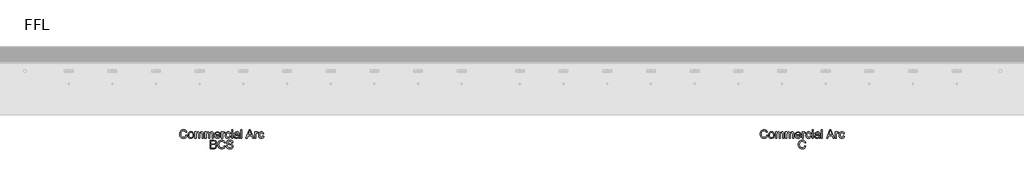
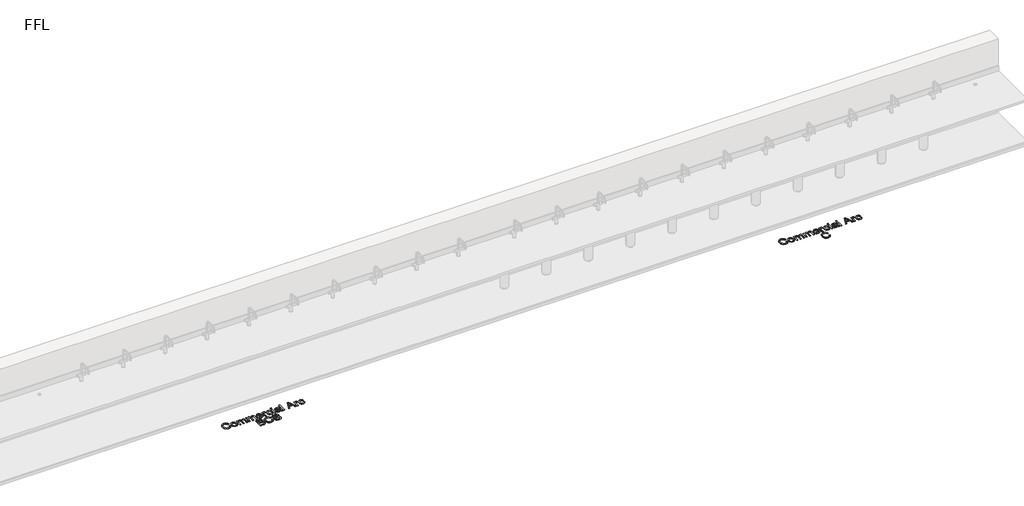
# One storey, part 5 of 9: 2 proxies.
"""IFC4 building model written with IfcOpenShell, lengths in millimetres."""

from ifc_helpers import new_model, si_unit, origin, origin_with_axes, place, context, project, spatial, polyline, outline, extrude, element, save

model = new_model("IFC4")

# Units and contexts
model_context = context("Model", 3, world=origin())
ifc_project = project(units=[si_unit("LENGTHUNIT", "METRE", prefix="MILLI")], contexts=[model_context])

# Site, building, storey
site = spatial("IfcSite", under=ifc_project)
building = spatial("IfcBuilding", under=site)
storey = spatial("IfcBuildingStorey", under=building, Name="FFL", Elevation=0.0)

# Proxies
placement = place(None, origin())
element("IfcBuildingElementProxy", 1, Name="150mm Arial", ObjectType="150mm Arial", at=placement, inside=storey, context=model_context, shape_type="SweptSolid", body=[
    extrude(outline(polyline([(-2955.1199083, -1683.6981691), (-2936.6583698, -1688.4577845), (-2945.1769996, -1709.9707052), (-2958.545389, -1725.6873518), (-2976.1054852, -1735.301234), (-2997.1992352, -1738.5058614), (-3018.6129972, -1736.0809816), (-3035.6187063, -1728.8063422), (-3048.6535621, -1716.934347), (-3058.154764, -1700.7173999), (-3063.9555453, -1681.6518951), (-3065.889139, -1661.2342268), (-3063.7031414, -1639.6987701), (-3057.1451486, -1621.1020153), (-3046.5577087, -1606.0344071), (-3032.2833698, -1595.0863903), (-3015.3542833, -1588.4202244), (-2996.8026006, -1586.1981691), (-2976.5607135, -1589.0737701), (-2959.8254371, -1597.700573), (-2947.1196078, -1611.5467268), (-2938.9660621, -1630.0803807), (-2957.4276006, -1634.4794191), (-2963.8278409, -1621.0163783), (-2972.5718313, -1611.7811018), (-2983.7677448, -1606.4400561), (-2997.5237544, -1604.6597076), (-3013.3801246, -1606.6338662), (-3026.4059659, -1612.5563422), (-3036.2902809, -1621.8051403), (-3042.7220717, -1633.7582653), (-3047.4276006, -1661.1981691), (-3041.8566871, -1693.0010537), (-3034.7352929, -1704.8775561), (-3024.5129371, -1713.3195633), (-3012.2578289, -1718.3631331), (-2999.0381775, -1720.044323), (-2983.6280212, -1717.7546595), (-2970.7869756, -1710.8856691), (-2961.0919635, -1699.5094672), (-2955.1199083, -1683.6981691)])), origin_with_axes(), (0.0, 0.0, 1.0), 5.0),
    extrude(outline(polyline([(-2918.1968313, -1681.9673999), (-2914.2034419, -1655.8165585), (-2902.2232736, -1637.4361499), (-2887.4215909, -1628.4307412), (-2869.6992352, -1625.4289383), (-2850.3047039, -1629.0842869), (-2834.8134179, -1640.0503326), (-2824.6586703, -1657.4616908), (-2821.2737544, -1680.4529768), (-2822.7701486, -1699.1038182), (-2827.2593313, -1713.3015345), (-2834.6105934, -1723.9340465), (-2844.6932256, -1731.8892749), (-2856.6688866, -1736.8517148), (-2869.6992352, -1738.5058614), (-2889.3281414, -1734.8640345), (-2904.8013986, -1723.9385537), (-2914.8479732, -1706.1621114), (-2918.1968313, -1681.9673999)]), holes=[polyline([(-2899.7352929, -1681.9313422), (-2897.5988746, -1698.6395754), (-2891.1896198, -1710.543121), (-2881.5441871, -1717.6690225), (-2869.6992352, -1720.044323), (-2857.9083698, -1717.6555008), (-2848.2809659, -1710.4890345), (-2841.8717111, -1698.4277364), (-2839.7352929, -1681.3544191), (-2841.8852328, -1665.1329648), (-2848.3350525, -1653.3916787), (-2857.975978, -1646.2657773), (-2869.6992352, -1643.8904768), (-2881.5441871, -1646.2567629), (-2891.1896198, -1653.355621), (-2897.5988746, -1665.2321234), (-2899.7352929, -1681.9313422)])]), origin_with_axes(), (0.0, 0.0, 1.0), 5.0),
    extrude(outline(polyline([(-2800.5045236, -1736.1981691), (-2800.5045236, -1627.7366307), (-2782.0429852, -1627.7366307), (-2782.0429852, -1645.5851883), (-2769.3506775, -1630.9637941), (-2751.2857736, -1625.4289383), (-2741.0183458, -1626.8396956), (-2732.7881775, -1631.0719672), (-2722.6199083, -1646.8832653), (-2708.2148602, -1630.7925201), (-2690.0237544, -1625.4289383), (-2676.1460501, -1627.6600081), (-2665.8831294, -1634.3532172), (-2659.5414828, -1645.6888542), (-2657.4276006, -1661.8472076), (-2657.4276006, -1736.1981691), (-2675.889139, -1736.1981691), (-2675.889139, -1669.7798999), (-2677.6018794, -1654.3652364), (-2683.8038025, -1646.7750922), (-2694.3506775, -1643.8904768), (-2704.3521799, -1645.7384335), (-2712.5057256, -1651.2823037), (-2717.927901, -1660.9006932), (-2719.7352929, -1674.9722076), (-2719.7352929, -1736.1981691), (-2738.1968313, -1736.1981691), (-2738.1968313, -1667.7246114), (-2742.4696679, -1649.839996), (-2748.1081895, -1645.3778566), (-2756.4780813, -1643.8904768), (-2770.1439467, -1647.856823), (-2779.2304852, -1659.4673999), (-2782.0429852, -1681.4986499), (-2782.0429852, -1736.1981691), (-2800.5045236, -1736.1981691)])), origin_with_axes(), (0.0, 0.0, 1.0), 5.0),
    extrude(outline(polyline([(-2629.7352929, -1736.1981691), (-2629.7352929, -1627.7366307), (-2611.2737544, -1627.7366307), (-2611.2737544, -1645.5851883), (-2598.5814467, -1630.9637941), (-2580.5165429, -1625.4289383), (-2570.249115, -1626.8396956), (-2562.0189467, -1631.0719672), (-2551.8506775, -1646.8832653), (-2537.4456294, -1630.7925201), (-2519.2545236, -1625.4289383), (-2505.3768193, -1627.6600081), (-2495.1138986, -1634.3532172), (-2488.772252, -1645.6888542), (-2486.6583698, -1661.8472076), (-2486.6583698, -1736.1981691), (-2505.1199083, -1736.1981691), (-2505.1199083, -1669.7798999), (-2506.8326486, -1654.3652364), (-2513.0345717, -1646.7750922), (-2523.5814467, -1643.8904768), (-2533.5829491, -1645.7384335), (-2541.7364948, -1651.2823037), (-2547.1586703, -1660.9006932), (-2548.9660621, -1674.9722076), (-2548.9660621, -1736.1981691), (-2567.4276006, -1736.1981691), (-2567.4276006, -1667.7246114), (-2571.7004371, -1649.839996), (-2577.3389587, -1645.3778566), (-2585.7088506, -1643.8904768), (-2599.3747159, -1647.856823), (-2608.4612544, -1659.4673999), (-2611.2737544, -1681.4986499), (-2611.2737544, -1736.1981691), (-2629.7352929, -1736.1981691)])), origin_with_axes(), (0.0, 0.0, 1.0), 5.0),
    extrude(outline(polyline([(-2383.0285621, -1703.8904768), (-2364.9276006, -1706.1981691), (-2371.4495357, -1719.8369912), (-2381.8566871, -1730.0323037), (-2395.9146799, -1736.387472), (-2413.389139, -1738.5058614), (-2435.0507977, -1734.8505129), (-2451.7184659, -1723.8844672), (-2462.3464708, -1706.3198638), (-2465.889139, -1682.8688422), (-2462.3104131, -1658.6290585), (-2451.5742352, -1640.5010537), (-2435.1319275, -1629.1969672), (-2414.4348121, -1625.4289383), (-2394.382228, -1629.1879528), (-2378.3590909, -1640.464996), (-2367.8527809, -1658.5569432), (-2364.3506775, -1682.7606691), (-2364.4588506, -1687.7366307), (-2447.4276006, -1687.7366307), (-2444.2319876, -1701.5557412), (-2436.8086102, -1711.714996), (-2426.0949684, -1717.9619912), (-2413.0285621, -1720.044323), (-2394.9276006, -1716.1861499), (-2383.0285621, -1703.8904768)]), holes=[polyline([(-2447.4276006, -1669.2750922), (-2382.8122159, -1669.2750922), (-2385.3092111, -1659.5214864), (-2390.2040429, -1652.544323), (-2400.967264, -1646.0539383), (-2414.5069275, -1643.8904768), (-2426.9513385, -1645.6167388), (-2437.2413025, -1650.7955249), (-2444.3942472, -1658.8679408), (-2447.4276006, -1669.2750922)])]), origin_with_axes(), (0.0, 0.0, 1.0), 5.0),
    extrude(outline(polyline([(-2345.889139, -1736.1981691), (-2345.889139, -1627.7366307), (-2329.7352929, -1627.7366307), (-2329.7352929, -1643.7823037), (-2318.2689467, -1628.9986499), (-2306.7304852, -1625.4289383), (-2288.1968313, -1631.1260537), (-2294.3626967, -1647.6765345), (-2307.3434659, -1643.8904768), (-2317.7821679, -1647.5323037), (-2324.4348121, -1657.6284576), (-2327.4276006, -1679.1909576), (-2327.4276006, -1736.1981691), (-2345.889139, -1736.1981691)])), origin_with_axes(), (0.0, 0.0, 1.0), 5.0),
    extrude(outline(polyline([(-2207.4276006, -1696.9673999), (-2188.9660621, -1699.2750922), (-2194.1132977, -1715.6948638), (-2203.7857736, -1728.1032172), (-2217.0730333, -1735.9052004), (-2233.0646198, -1738.5058614), (-2252.7025405, -1734.8775561), (-2268.0586102, -1723.9926403), (-2277.9699684, -1706.3288783), (-2281.2737544, -1682.3640345), (-2275.6307256, -1651.6969672), (-2268.5093313, -1640.1990706), (-2258.4312063, -1631.9914383), (-2246.3744155, -1627.0695633), (-2233.3170236, -1625.4289383), (-2217.7175645, -1627.6825441), (-2205.2461102, -1634.4433614), (-2196.2992953, -1645.3508133), (-2191.2737544, -1660.044323), (-2209.7352929, -1662.3520153), (-2218.2989948, -1648.5238903), (-2233.1727929, -1643.8904768), (-2245.1033818, -1646.1711258), (-2254.5730333, -1653.013073), (-2260.7524203, -1664.7859095), (-2262.8122159, -1681.8592268), (-2260.7974924, -1699.1624119), (-2254.7533217, -1710.9758133), (-2245.4549443, -1717.7771956), (-2233.6776006, -1720.044323), (-2224.1178049, -1718.6290585), (-2216.279764, -1714.3832653), (-2210.5781414, -1707.1987701), (-2207.4276006, -1696.9673999)])), origin_with_axes(), (0.0, 0.0, 1.0), 5.0),
    extrude(outline(polyline([(-2172.8122159, -1606.9673999), (-2172.8122159, -1588.5058614), (-2154.3506775, -1588.5058614), (-2154.3506775, -1606.9673999), (-2172.8122159, -1606.9673999)])), origin_with_axes(), (0.0, 0.0, 1.0), 5.0),
    extrude(outline(polyline([(-2172.8122159, -1736.1981691), (-2172.8122159, -1627.7366307), (-2154.3506775, -1627.7366307), (-2154.3506775, -1736.1981691), (-2172.8122159, -1736.1981691)])), origin_with_axes(), (0.0, 0.0, 1.0), 5.0),
    extrude(outline(polyline([(-2057.4276006, -1722.3520153), (-2075.3302448, -1734.8640345), (-2095.107889, -1738.5058614), (-2110.5360741, -1736.3153566), (-2121.9167833, -1729.7438422), (-2128.9345116, -1719.7648758), (-2131.2737544, -1707.3520153), (-2127.7401006, -1692.7486499), (-2118.4552448, -1682.1476883), (-2105.5285621, -1676.089996), (-2089.5550044, -1673.3135537), (-2057.5357736, -1666.9673999), (-2057.4276006, -1662.856823), (-2058.6986342, -1654.6176403), (-2062.5117352, -1649.2270153), (-2071.0393794, -1645.2246114), (-2082.920389, -1643.8904768), (-2101.5982736, -1647.4421595), (-2110.5045236, -1660.044323), (-2128.9660621, -1657.7366307), (-2120.9792833, -1639.7077845), (-2104.8975525, -1629.1428807), (-2080.5405813, -1625.4289383), (-2058.1667833, -1628.7101883), (-2045.5285621, -1636.949371), (-2039.8675044, -1649.4794191), (-2038.9660621, -1665.6332653), (-2038.9660621, -1688.6020153), (-2038.0285621, -1720.6753326), (-2034.3506775, -1736.1981691), (-2052.8122159, -1736.1981691), (-2057.4276006, -1722.3520153)]), holes=[polyline([(-2057.4276006, -1685.4289383), (-2087.2112544, -1691.089996), (-2103.0946679, -1694.0827845), (-2110.2881775, -1698.950573), (-2112.8122159, -1706.0539383), (-2107.3134179, -1716.0419191), (-2091.1776006, -1720.044323), (-2072.4997159, -1715.6272557), (-2060.4564467, -1704.9361499), (-2057.5357736, -1690.6573037), (-2057.4276006, -1685.4289383)])]), origin_with_axes(), (0.0, 0.0, 1.0), 5.0),
    extrude(outline(polyline([(-2013.5814467, -1736.1981691), (-2013.5814467, -1588.5058614), (-1995.1199083, -1588.5058614), (-1995.1199083, -1736.1981691), (-2013.5814467, -1736.1981691)])), origin_with_axes(), (0.0, 0.0, 1.0), 5.0),
    extrude(outline(polyline([(-1924.6271198, -1736.1981691), (-1865.6727929, -1588.5058614), (-1849.951639, -1588.5058614), (-1790.9973121, -1736.1981691), (-1810.5045236, -1736.1981691), (-1827.4155813, -1690.044323), (-1888.2449083, -1690.044323), (-1905.1199083, -1736.1981691), (-1924.6271198, -1736.1981691)]), holes=[polyline([(-1881.4660621, -1671.5827845), (-1834.1583698, -1671.5827845), (-1847.4636583, -1635.2726883), (-1857.8122159, -1606.9673999), (-1867.0069275, -1632.0996114), (-1881.4660621, -1671.5827845)])]), origin_with_axes(), (0.0, 0.0, 1.0), 5.0),
    extrude(outline(polyline([(-1773.5814467, -1736.1981691), (-1773.5814467, -1627.7366307), (-1757.4276006, -1627.7366307), (-1757.4276006, -1643.7823037), (-1745.9612544, -1628.9986499), (-1734.4227929, -1625.4289383), (-1715.889139, -1631.1260537), (-1722.0550044, -1647.6765345), (-1735.0357736, -1643.8904768), (-1745.4744756, -1647.5323037), (-1752.1271198, -1657.6284576), (-1755.1199083, -1679.1909576), (-1755.1199083, -1736.1981691), (-1773.5814467, -1736.1981691)])), origin_with_axes(), (0.0, 0.0, 1.0), 5.0),
    extrude(outline(polyline([(-1635.1199083, -1696.9673999), (-1616.6583698, -1699.2750922), (-1621.8056054, -1715.6948638), (-1631.4780813, -1728.1032172), (-1644.7653409, -1735.9052004), (-1660.7569275, -1738.5058614), (-1680.3948482, -1734.8775561), (-1695.7509179, -1723.9926403), (-1705.662276, -1706.3288783), (-1708.9660621, -1682.3640345), (-1703.3230333, -1651.6969672), (-1696.201639, -1640.1990706), (-1686.123514, -1631.9914383), (-1674.0667232, -1627.0695633), (-1661.0093313, -1625.4289383), (-1645.4098722, -1627.6825441), (-1632.9384179, -1634.4433614), (-1623.991603, -1645.3508133), (-1618.9660621, -1660.044323), (-1637.4276006, -1662.3520153), (-1645.9913025, -1648.5238903), (-1660.8651006, -1643.8904768), (-1672.7956895, -1646.1711258), (-1682.2653409, -1653.013073), (-1688.444728, -1664.7859095), (-1690.5045236, -1681.8592268), (-1688.4898001, -1699.1624119), (-1682.4456294, -1710.9758133), (-1673.147252, -1717.7771956), (-1661.3699083, -1720.044323), (-1651.8101126, -1718.6290585), (-1643.9720717, -1714.3832653), (-1638.2704491, -1707.1987701), (-1635.1199083, -1696.9673999)])), origin_with_axes(), (0.0, 0.0, 1.0), 5.0),
    extrude(outline(polyline([(-2538.5814467, -1918.5058614), (-2538.5814467, -1770.8135537), (-2482.2232736, -1770.8135537), (-2454.6211102, -1775.1585057), (-2445.3452688, -1780.6708254), (-2438.3230333, -1788.5178807), (-2432.4276006, -1807.4121114), (-2437.3855333, -1824.6657172), (-2452.3675044, -1837.7366307), (-2441.9062664, -1843.199371), (-2434.1763986, -1851.5106691), (-2429.4032616, -1862.1206451), (-2427.8122159, -1874.4794191), (-2432.1571679, -1894.3291787), (-2442.920389, -1908.4637941), (-2458.9840909, -1915.9637941), (-2482.6559659, -1918.5058614), (-2538.5814467, -1918.5058614)]), holes=[polyline([(-2520.1199083, -1900.044323), (-2482.2593313, -1900.044323), (-2468.5574083, -1899.3231691), (-2456.9648602, -1895.3027364), (-2449.2845717, -1887.0996114), (-2446.2737544, -1874.6597076), (-2449.8074083, -1860.308746), (-2461.2557256, -1851.7450441), (-2484.0622159, -1849.2750922), (-2520.1199083, -1849.2750922), (-2520.1199083, -1900.044323)]), polyline([(-2520.1199083, -1830.8135537), (-2486.4059659, -1830.8135537), (-2466.7184659, -1829.2270153), (-2454.873514, -1822.3940826), (-2450.889139, -1810.3688422), (-2454.6030813, -1798.325573), (-2465.2401006, -1791.2041787), (-2488.9660621, -1789.2750922), (-2520.1199083, -1789.2750922), (-2520.1199083, -1830.8135537)])]), origin_with_axes(), (0.0, 0.0, 1.0), 5.0),
    extrude(outline(polyline([(-2298.5814467, -1866.0058614), (-2280.1199083, -1870.7654768), (-2288.6385381, -1892.2783975), (-2302.0069275, -1907.9950441), (-2319.5670236, -1917.6089263), (-2340.6607736, -1920.8135537), (-2362.0745357, -1918.3886739), (-2379.0802448, -1911.1140345), (-2392.1151006, -1899.2420393), (-2401.6163025, -1883.0250922), (-2407.4170837, -1863.9595874), (-2409.3506775, -1843.5419191), (-2407.1646799, -1822.0064624), (-2400.6066871, -1803.4097076), (-2390.0192472, -1788.3420994), (-2375.7449083, -1777.3940826), (-2358.8158217, -1770.7279167), (-2340.264139, -1768.5058614), (-2320.022252, -1771.3814624), (-2303.2869756, -1780.0082653), (-2290.5811462, -1793.8544191), (-2282.4276006, -1812.388073), (-2300.889139, -1816.7871114), (-2307.2893794, -1803.3240706), (-2316.0333698, -1794.0887941), (-2327.2292833, -1788.7477484), (-2340.9852929, -1786.9673999), (-2356.8416631, -1788.9415585), (-2369.8675044, -1794.8640345), (-2379.7518193, -1804.1128326), (-2386.1836102, -1816.0659576), (-2390.889139, -1843.5058614), (-2385.3182256, -1875.308746), (-2378.1968313, -1887.1852484), (-2367.9744756, -1895.6272557), (-2355.7193674, -1900.6708254), (-2342.4997159, -1902.3520153), (-2327.0895597, -1900.0623518), (-2314.248514, -1893.1933614), (-2304.553502, -1881.8171595), (-2298.5814467, -1866.0058614)])), origin_with_axes(), (0.0, 0.0, 1.0), 5.0),
    extrude(outline(polyline([(-2261.6583698, -1867.7366307), (-2243.1968313, -1867.7366307), (-2237.2473121, -1886.216198), (-2222.7160621, -1897.8988903), (-2200.576639, -1902.3520153), (-2181.2857736, -1898.980621), (-2168.8278409, -1889.7137941), (-2164.7352929, -1877.3279768), (-2167.8001967, -1865.8075441), (-2180.3482736, -1857.4241307), (-2207.2292833, -1850.3748518), (-2236.1655813, -1841.2702845), (-2251.8687063, -1827.5323037), (-2257.0429852, -1809.1789383), (-2255.4429251, -1798.3661379), (-2250.6427448, -1788.2835057), (-2242.7686462, -1779.7378326), (-2231.9468313, -1773.5359095), (-2204.5790429, -1768.5058614), (-2175.3723121, -1773.7702845), (-2164.1763986, -1780.2696835), (-2155.9011583, -1789.2390345), (-2150.6637784, -1800.1194432), (-2148.5814467, -1812.3520153), (-2167.0429852, -1812.3520153), (-2170.4324083, -1801.3363903), (-2177.4997159, -1793.3856691), (-2188.5423842, -1788.5719672), (-2203.857889, -1786.9673999), (-2219.5339708, -1788.5539383), (-2230.2881775, -1793.3135537), (-2236.5081294, -1800.3177605), (-2238.5814467, -1808.638073), (-2237.1120958, -1815.7324239), (-2232.7040429, -1821.4385537), (-2202.5598121, -1831.7510537), (-2169.8915429, -1841.0178807), (-2159.3672039, -1847.715597), (-2152.0249563, -1855.981823), (-2146.2737544, -1876.8592268), (-2147.927901, -1888.2399359), (-2152.8903409, -1898.9445633), (-2160.9582496, -1908.1573037), (-2171.9288025, -1915.0623518), (-2199.8554852, -1920.8135537), (-2217.9429251, -1919.263073), (-2232.8302448, -1914.6116307), (-2244.6887184, -1906.841198), (-2253.6896198, -1895.933746), (-2259.467865, -1882.6464864), (-2261.6583698, -1867.7366307)])), origin_with_axes(), (0.0, 0.0, 1.0), 5.0),
])
element("IfcBuildingElementProxy", 2, Name="150mm Arial", ObjectType="150mm Arial", at=placement, inside=storey, context=model_context, shape_type="SweptSolid", body=[
    extrude(outline(polyline([(7014.8800917, -1683.6981691), (7033.3416302, -1688.4577845), (7024.8230004, -1709.9707052), (7011.454611, -1725.6873518), (6993.8945148, -1735.301234), (6972.8007648, -1738.5058614), (6951.3870028, -1736.0809816), (6934.3812937, -1728.8063422), (6921.3464379, -1716.934347), (6911.845236, -1700.7173999), (6906.0444547, -1681.6518951), (6904.110861, -1661.2342268), (6906.2968586, -1639.6987701), (6912.8548514, -1621.1020153), (6923.4422913, -1606.0344071), (6937.7166302, -1595.0863903), (6954.6457167, -1588.4202244), (6973.1973994, -1586.1981691), (6993.4392865, -1589.0737701), (7010.1745629, -1597.700573), (7022.8803922, -1611.5467268), (7031.0339379, -1630.0803807), (7012.5723994, -1634.4794191), (7006.1721591, -1621.0163783), (6997.4281687, -1611.7811018), (6986.2322552, -1606.4400561), (6972.4762456, -1604.6597076), (6956.6198754, -1606.6338662), (6943.5940341, -1612.5563422), (6933.7097191, -1621.8051403), (6927.2779283, -1633.7582653), (6922.5723994, -1661.1981691), (6928.1433129, -1693.0010537), (6935.2647071, -1704.8775561), (6945.4870629, -1713.3195633), (6957.7421711, -1718.3631331), (6970.9618225, -1720.044323), (6986.3719788, -1717.7546595), (6999.2130244, -1710.8856691), (7008.9080365, -1699.5094672), (7014.8800917, -1683.6981691)])), origin_with_axes(), (0.0, 0.0, 1.0), 5.0),
    extrude(outline(polyline([(7051.8031687, -1681.9673999), (7055.7965581, -1655.8165585), (7067.7767264, -1637.4361499), (7082.5784091, -1628.4307412), (7100.3007648, -1625.4289383), (7119.6952961, -1629.0842869), (7135.1865821, -1640.0503326), (7145.3413297, -1657.4616908), (7148.7262456, -1680.4529768), (7147.2298514, -1699.1038182), (7142.7406687, -1713.3015345), (7135.3894066, -1723.9340465), (7125.3067744, -1731.8892749), (7113.3311134, -1736.8517148), (7100.3007648, -1738.5058614), (7080.6718586, -1734.8640345), (7065.1986014, -1723.9385537), (7055.1520268, -1706.1621114), (7051.8031687, -1681.9673999)]), holes=[polyline([(7070.2647071, -1681.9313422), (7072.4011254, -1698.6395754), (7078.8103802, -1710.543121), (7088.4558129, -1717.6690225), (7100.3007648, -1720.044323), (7112.0916302, -1717.6555008), (7121.7190341, -1710.4890345), (7128.1282889, -1698.4277364), (7130.2647071, -1681.3544191), (7128.1147672, -1665.1329648), (7121.6649475, -1653.3916787), (7112.024022, -1646.2657773), (7100.3007648, -1643.8904768), (7088.4558129, -1646.2567629), (7078.8103802, -1653.355621), (7072.4011254, -1665.2321234), (7070.2647071, -1681.9313422)])]), origin_with_axes(), (0.0, 0.0, 1.0), 5.0),
    extrude(outline(polyline([(7169.4954764, -1736.1981691), (7169.4954764, -1627.7366307), (7187.9570148, -1627.7366307), (7187.9570148, -1645.5851883), (7200.6493225, -1630.9637941), (7218.7142264, -1625.4289383), (7228.9816542, -1626.8396956), (7237.2118225, -1631.0719672), (7247.3800917, -1646.8832653), (7261.7851398, -1630.7925201), (7279.9762456, -1625.4289383), (7293.8539499, -1627.6600081), (7304.1168706, -1634.3532172), (7310.4585172, -1645.6888542), (7312.5723994, -1661.8472076), (7312.5723994, -1736.1981691), (7294.110861, -1736.1981691), (7294.110861, -1669.7798999), (7292.3981206, -1654.3652364), (7286.1961975, -1646.7750922), (7275.6493225, -1643.8904768), (7265.6478201, -1645.7384335), (7257.4942744, -1651.2823037), (7252.072099, -1660.9006932), (7250.2647071, -1674.9722076), (7250.2647071, -1736.1981691), (7231.8031687, -1736.1981691), (7231.8031687, -1667.7246114), (7227.5303321, -1649.839996), (7221.8918105, -1645.3778566), (7213.5219187, -1643.8904768), (7199.8560533, -1647.856823), (7190.7695148, -1659.4673999), (7187.9570148, -1681.4986499), (7187.9570148, -1736.1981691), (7169.4954764, -1736.1981691)])), origin_with_axes(), (0.0, 0.0, 1.0), 5.0),
    extrude(outline(polyline([(7340.2647071, -1736.1981691), (7340.2647071, -1627.7366307), (7358.7262456, -1627.7366307), (7358.7262456, -1645.5851883), (7371.4185533, -1630.9637941), (7389.4834571, -1625.4289383), (7399.750885, -1626.8396956), (7407.9810533, -1631.0719672), (7418.1493225, -1646.8832653), (7432.5543706, -1630.7925201), (7450.7454764, -1625.4289383), (7464.6231807, -1627.6600081), (7474.8861014, -1634.3532172), (7481.227748, -1645.6888542), (7483.3416302, -1661.8472076), (7483.3416302, -1736.1981691), (7464.8800917, -1736.1981691), (7464.8800917, -1669.7798999), (7463.1673514, -1654.3652364), (7456.9654283, -1646.7750922), (7446.4185533, -1643.8904768), (7436.4170509, -1645.7384335), (7428.2635052, -1651.2823037), (7422.8413297, -1660.9006932), (7421.0339379, -1674.9722076), (7421.0339379, -1736.1981691), (7402.5723994, -1736.1981691), (7402.5723994, -1667.7246114), (7398.2995629, -1649.839996), (7392.6610413, -1645.3778566), (7384.2911494, -1643.8904768), (7370.6252841, -1647.856823), (7361.5387456, -1659.4673999), (7358.7262456, -1681.4986499), (7358.7262456, -1736.1981691), (7340.2647071, -1736.1981691)])), origin_with_axes(), (0.0, 0.0, 1.0), 5.0),
    extrude(outline(polyline([(7586.9714379, -1703.8904768), (7605.0723994, -1706.1981691), (7598.5504643, -1719.8369912), (7588.1433129, -1730.0323037), (7574.0853201, -1736.387472), (7556.610861, -1738.5058614), (7534.9492023, -1734.8505129), (7518.2815341, -1723.8844672), (7507.6535292, -1706.3198638), (7504.110861, -1682.8688422), (7507.6895869, -1658.6290585), (7518.4257648, -1640.5010537), (7534.8680725, -1629.1969672), (7555.5651879, -1625.4289383), (7575.617772, -1629.1879528), (7591.6409091, -1640.464996), (7602.1472191, -1658.5569432), (7605.6493225, -1682.7606691), (7605.5411494, -1687.7366307), (7522.5723994, -1687.7366307), (7525.7680124, -1701.5557412), (7533.1913898, -1711.714996), (7543.9050316, -1717.9619912), (7556.9714379, -1720.044323), (7575.0723994, -1716.1861499), (7586.9714379, -1703.8904768)]), holes=[polyline([(7522.5723994, -1669.2750922), (7587.1877841, -1669.2750922), (7584.6907889, -1659.5214864), (7579.7959571, -1652.544323), (7569.032736, -1646.0539383), (7555.4930725, -1643.8904768), (7543.0486615, -1645.6167388), (7532.7586975, -1650.7955249), (7525.6057528, -1658.8679408), (7522.5723994, -1669.2750922)])]), origin_with_axes(), (0.0, 0.0, 1.0), 5.0),
    extrude(outline(polyline([(7624.110861, -1736.1981691), (7624.110861, -1627.7366307), (7640.2647071, -1627.7366307), (7640.2647071, -1643.7823037), (7651.7310533, -1628.9986499), (7663.2695148, -1625.4289383), (7681.8031687, -1631.1260537), (7675.6373033, -1647.6765345), (7662.6565341, -1643.8904768), (7652.2178321, -1647.5323037), (7645.5651879, -1657.6284576), (7642.5723994, -1679.1909576), (7642.5723994, -1736.1981691), (7624.110861, -1736.1981691)])), origin_with_axes(), (0.0, 0.0, 1.0), 5.0),
    extrude(outline(polyline([(7762.5723994, -1696.9673999), (7781.0339379, -1699.2750922), (7775.8867023, -1715.6948638), (7766.2142264, -1728.1032172), (7752.9269667, -1735.9052004), (7736.9353802, -1738.5058614), (7717.2974595, -1734.8775561), (7701.9413898, -1723.9926403), (7692.0300316, -1706.3288783), (7688.7262456, -1682.3640345), (7694.3692744, -1651.6969672), (7701.4906687, -1640.1990706), (7711.5687937, -1631.9914383), (7723.6255845, -1627.0695633), (7736.6829764, -1625.4289383), (7752.2824355, -1627.6825441), (7764.7538898, -1634.4433614), (7773.7007047, -1645.3508133), (7778.7262456, -1660.044323), (7760.2647071, -1662.3520153), (7751.7010052, -1648.5238903), (7736.8272071, -1643.8904768), (7724.8966182, -1646.1711258), (7715.4269667, -1653.013073), (7709.2475797, -1664.7859095), (7707.1877841, -1681.8592268), (7709.2025076, -1699.1624119), (7715.2466783, -1710.9758133), (7724.5450557, -1717.7771956), (7736.3223994, -1720.044323), (7745.8821951, -1718.6290585), (7753.720236, -1714.3832653), (7759.4218586, -1707.1987701), (7762.5723994, -1696.9673999)])), origin_with_axes(), (0.0, 0.0, 1.0), 5.0),
    extrude(outline(polyline([(7797.1877841, -1606.9673999), (7797.1877841, -1588.5058614), (7815.6493225, -1588.5058614), (7815.6493225, -1606.9673999), (7797.1877841, -1606.9673999)])), origin_with_axes(), (0.0, 0.0, 1.0), 5.0),
    extrude(outline(polyline([(7797.1877841, -1736.1981691), (7797.1877841, -1627.7366307), (7815.6493225, -1627.7366307), (7815.6493225, -1736.1981691), (7797.1877841, -1736.1981691)])), origin_with_axes(), (0.0, 0.0, 1.0), 5.0),
    extrude(outline(polyline([(7912.5723994, -1722.3520153), (7894.6697552, -1734.8640345), (7874.892111, -1738.5058614), (7859.4639259, -1736.3153566), (7848.0832167, -1729.7438422), (7841.0654884, -1719.7648758), (7838.7262456, -1707.3520153), (7842.2598994, -1692.7486499), (7851.5447552, -1682.1476883), (7864.4714379, -1676.089996), (7880.4449956, -1673.3135537), (7912.4642264, -1666.9673999), (7912.5723994, -1662.856823), (7911.3013658, -1654.6176403), (7907.4882648, -1649.2270153), (7898.9606206, -1645.2246114), (7887.079611, -1643.8904768), (7868.4017264, -1647.4421595), (7859.4954764, -1660.044323), (7841.0339379, -1657.7366307), (7849.0207167, -1639.7077845), (7865.1024475, -1629.1428807), (7889.4594187, -1625.4289383), (7911.8332167, -1628.7101883), (7924.4714379, -1636.949371), (7930.1324956, -1649.4794191), (7931.0339379, -1665.6332653), (7931.0339379, -1688.6020153), (7931.9714379, -1720.6753326), (7935.6493225, -1736.1981691), (7917.1877841, -1736.1981691), (7912.5723994, -1722.3520153)]), holes=[polyline([(7912.5723994, -1685.4289383), (7882.7887456, -1691.089996), (7866.9053321, -1694.0827845), (7859.7118225, -1698.950573), (7857.1877841, -1706.0539383), (7862.6865821, -1716.0419191), (7878.8223994, -1720.044323), (7897.5002841, -1715.6272557), (7909.5435533, -1704.9361499), (7912.4642264, -1690.6573037), (7912.5723994, -1685.4289383)])]), origin_with_axes(), (0.0, 0.0, 1.0), 5.0),
    extrude(outline(polyline([(7956.4185533, -1736.1981691), (7956.4185533, -1588.5058614), (7974.8800917, -1588.5058614), (7974.8800917, -1736.1981691), (7956.4185533, -1736.1981691)])), origin_with_axes(), (0.0, 0.0, 1.0), 5.0),
    extrude(outline(polyline([(8045.3728802, -1736.1981691), (8104.3272071, -1588.5058614), (8120.048361, -1588.5058614), (8179.0026879, -1736.1981691), (8159.4954764, -1736.1981691), (8142.5844187, -1690.044323), (8081.7550917, -1690.044323), (8064.8800917, -1736.1981691), (8045.3728802, -1736.1981691)]), holes=[polyline([(8088.5339379, -1671.5827845), (8135.8416302, -1671.5827845), (8122.5363417, -1635.2726883), (8112.1877841, -1606.9673999), (8102.9930725, -1632.0996114), (8088.5339379, -1671.5827845)])]), origin_with_axes(), (0.0, 0.0, 1.0), 5.0),
    extrude(outline(polyline([(8196.4185533, -1736.1981691), (8196.4185533, -1627.7366307), (8212.5723994, -1627.7366307), (8212.5723994, -1643.7823037), (8224.0387456, -1628.9986499), (8235.5772071, -1625.4289383), (8254.110861, -1631.1260537), (8247.9449956, -1647.6765345), (8234.9642264, -1643.8904768), (8224.5255244, -1647.5323037), (8217.8728802, -1657.6284576), (8214.8800917, -1679.1909576), (8214.8800917, -1736.1981691), (8196.4185533, -1736.1981691)])), origin_with_axes(), (0.0, 0.0, 1.0), 5.0),
    extrude(outline(polyline([(8334.8800917, -1696.9673999), (8353.3416302, -1699.2750922), (8348.1943946, -1715.6948638), (8338.5219187, -1728.1032172), (8325.2346591, -1735.9052004), (8309.2430725, -1738.5058614), (8289.6051518, -1734.8775561), (8274.2490821, -1723.9926403), (8264.337724, -1706.3288783), (8261.0339379, -1682.3640345), (8266.6769667, -1651.6969672), (8273.798361, -1640.1990706), (8283.876486, -1631.9914383), (8295.9332768, -1627.0695633), (8308.9906687, -1625.4289383), (8324.5901278, -1627.6825441), (8337.0615821, -1634.4433614), (8346.008397, -1645.3508133), (8351.0339379, -1660.044323), (8332.5723994, -1662.3520153), (8324.0086975, -1648.5238903), (8309.1348994, -1643.8904768), (8297.2043105, -1646.1711258), (8287.7346591, -1653.013073), (8281.555272, -1664.7859095), (8279.4954764, -1681.8592268), (8281.5101999, -1699.1624119), (8287.5543706, -1710.9758133), (8296.852748, -1717.7771956), (8308.6300917, -1720.044323), (8318.1898874, -1718.6290585), (8326.0279283, -1714.3832653), (8331.7295509, -1707.1987701), (8334.8800917, -1696.9673999)])), origin_with_axes(), (0.0, 0.0, 1.0), 5.0),
    extrude(outline(polyline([(7671.4185533, -1866.0058614), (7689.8800917, -1870.7654768), (7681.3614619, -1892.2783975), (7667.9930725, -1907.9950441), (7650.4329764, -1917.6089263), (7629.3392264, -1920.8135537), (7607.9254643, -1918.3886739), (7590.9197552, -1911.1140345), (7577.8848994, -1899.2420393), (7568.3836975, -1883.0250922), (7562.5829163, -1863.9595874), (7560.6493225, -1843.5419191), (7562.8353201, -1822.0064624), (7569.3933129, -1803.4097076), (7579.9807528, -1788.3420994), (7594.2550917, -1777.3940826), (7611.1841783, -1770.7279167), (7629.735861, -1768.5058614), (7649.977748, -1771.3814624), (7666.7130244, -1780.0082653), (7679.4188538, -1793.8544191), (7687.5723994, -1812.388073), (7669.110861, -1816.7871114), (7662.7106206, -1803.3240706), (7653.9666302, -1794.0887941), (7642.7707167, -1788.7477484), (7629.0147071, -1786.9673999), (7613.1583369, -1788.9415585), (7600.1324956, -1794.8640345), (7590.2481807, -1804.1128326), (7583.8163898, -1816.0659576), (7579.110861, -1843.5058614), (7584.6817744, -1875.308746), (7591.8031687, -1887.1852484), (7602.0255244, -1895.6272557), (7614.2806326, -1900.6708254), (7627.5002841, -1902.3520153), (7642.9104403, -1900.0623518), (7655.751486, -1893.1933614), (7665.446498, -1881.8171595), (7671.4185533, -1866.0058614)])), origin_with_axes(), (0.0, 0.0, 1.0), 5.0),
])

save(model, "model.ifc")
